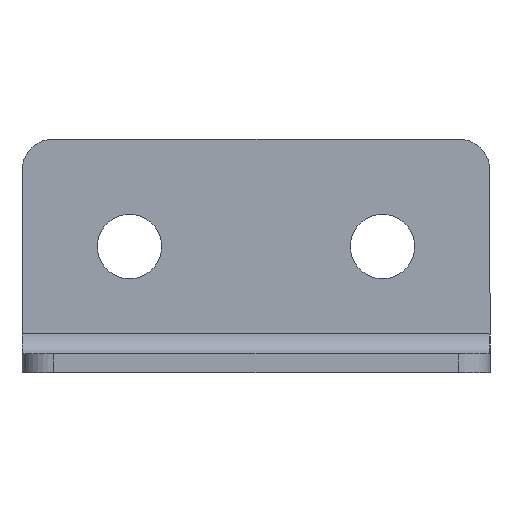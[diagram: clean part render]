
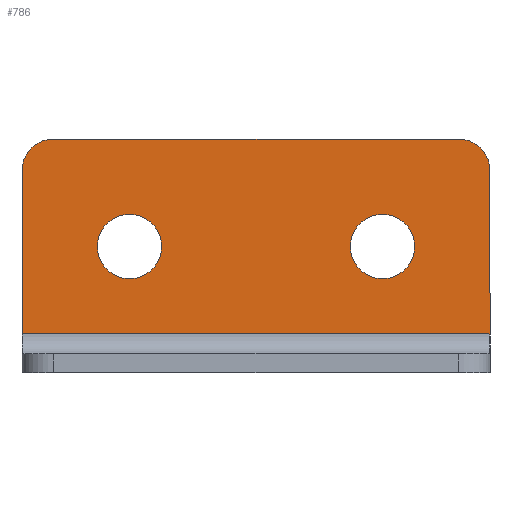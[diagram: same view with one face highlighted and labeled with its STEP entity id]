
A CAD part, top view. The second image highlights one B-rep face of the part: STEP entity #786.
In plain terms, the highlighted planar face has unit normal (0, 0, 1).
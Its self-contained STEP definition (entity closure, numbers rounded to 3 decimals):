
#8 = DIRECTION ( 'NONE',  ( 1., 0., 0. ) ) ;
#30 = EDGE_LOOP ( 'NONE', ( #117, #407, #618, #369, #463, #198 ) ) ;
#31 = VECTOR ( 'NONE', #667, 1000. ) ;
#36 = CARTESIAN_POINT ( 'NONE',  ( 27.135, 9.989, 1.5 ) ) ;
#39 = EDGE_CURVE ( 'NONE', #88, #70, #157, .T. ) ;
#40 = VERTEX_POINT ( 'NONE', #91 ) ;
#65 = FACE_OUTER_BOUND ( 'NONE', #30, .T. ) ;
#70 = VERTEX_POINT ( 'NONE', #370 ) ;
#84 = DIRECTION ( 'NONE',  ( 0., 0., 1. ) ) ;
#88 = VERTEX_POINT ( 'NONE', #765 ) ;
#91 = CARTESIAN_POINT ( 'NONE',  ( -7.365, 9.989, 1.5 ) ) ;
#105 = CIRCLE ( 'NONE', #233, 2.5 ) ;
#117 = ORIENTED_EDGE ( 'NONE', *, *, #39, .T. ) ;
#130 = CARTESIAN_POINT ( 'NONE',  ( -9.865, 9.989, 1.5 ) ) ;
#137 = AXIS2_PLACEMENT_3D ( 'NONE', #783, #405, #8 ) ;
#157 = LINE ( 'NONE', #130, #653 ) ;
#161 = EDGE_LOOP ( 'NONE', ( #610, #357 ) ) ;
#170 = VERTEX_POINT ( 'NONE', #437 ) ;
#185 = CARTESIAN_POINT ( 'NONE',  ( 21.185, 1.489, 1.5 ) ) ;
#187 = CARTESIAN_POINT ( 'NONE',  ( -1.365, 1.489, 1.5 ) ) ;
#192 = CARTESIAN_POINT ( 'NONE',  ( 0., 0., 1.5 ) ) ;
#193 = CARTESIAN_POINT ( 'NONE',  ( 27.135, 7.489, 1.5 ) ) ;
#196 = EDGE_CURVE ( 'NONE', #453, #828, #647, .T. ) ;
#198 = ORIENTED_EDGE ( 'NONE', *, *, #725, .T. ) ;
#225 = CIRCLE ( 'NONE', #561, 2.55 ) ;
#227 = VERTEX_POINT ( 'NONE', #283 ) ;
#233 = AXIS2_PLACEMENT_3D ( 'NONE', #654, #276, #722 ) ;
#245 = FACE_BOUND ( 'NONE', #431, .T. ) ;
#246 = VERTEX_POINT ( 'NONE', #678 ) ;
#259 = DIRECTION ( 'NONE',  ( 1., 0., 0. ) ) ;
#263 = DIRECTION ( 'NONE',  ( 1., 0., 0. ) ) ;
#276 = DIRECTION ( 'NONE',  ( 0., 0., 1. ) ) ;
#283 = CARTESIAN_POINT ( 'NONE',  ( 1.185, 1.489, 1.5 ) ) ;
#284 = CARTESIAN_POINT ( 'NONE',  ( 18.635, 1.489, 1.5 ) ) ;
#291 = VERTEX_POINT ( 'NONE', #185 ) ;
#297 = EDGE_CURVE ( 'NONE', #227, #246, #388, .T. ) ;
#320 = CARTESIAN_POINT ( 'NONE',  ( -1.365, 1.489, 1.5 ) ) ;
#321 = EDGE_CURVE ( 'NONE', #685, #40, #741, .T. ) ;
#333 = CIRCLE ( 'NONE', #137, 2.5 ) ;
#337 = ORIENTED_EDGE ( 'NONE', *, *, #341, .F. ) ;
#340 = DIRECTION ( 'NONE',  ( 0., -1., 0. ) ) ;
#341 = EDGE_CURVE ( 'NONE', #170, #291, #225, .T. ) ;
#352 = DIRECTION ( 'NONE',  ( 1., 0., 0. ) ) ;
#357 = ORIENTED_EDGE ( 'NONE', *, *, #544, .F. ) ;
#363 = AXIS2_PLACEMENT_3D ( 'NONE', #187, #640, #259 ) ;
#369 = ORIENTED_EDGE ( 'NONE', *, *, #674, .T. ) ;
#370 = CARTESIAN_POINT ( 'NONE',  ( -9.865, -5.411, 1.5 ) ) ;
#376 = CIRCLE ( 'NONE', #632, 2.55 ) ;
#379 = DIRECTION ( 'NONE',  ( 0., 1., 0. ) ) ;
#388 = CIRCLE ( 'NONE', #363, 2.55 ) ;
#391 = DIRECTION ( 'NONE',  ( 1., 0., 0. ) ) ;
#405 = DIRECTION ( 'NONE',  ( 0., 0., 1. ) ) ;
#407 = ORIENTED_EDGE ( 'NONE', *, *, #758, .T. ) ;
#426 = VECTOR ( 'NONE', #770, 1000. ) ;
#431 = EDGE_LOOP ( 'NONE', ( #753, #337 ) ) ;
#432 = AXIS2_PLACEMENT_3D ( 'NONE', #320, #760, #391 ) ;
#437 = CARTESIAN_POINT ( 'NONE',  ( 16.085, 1.489, 1.5 ) ) ;
#451 = AXIS2_PLACEMENT_3D ( 'NONE', #192, #643, #263 ) ;
#453 = VERTEX_POINT ( 'NONE', #606 ) ;
#455 = CARTESIAN_POINT ( 'NONE',  ( 0., -5.411, 1.5 ) ) ;
#463 = ORIENTED_EDGE ( 'NONE', *, *, #321, .T. ) ;
#484 = CARTESIAN_POINT ( 'NONE',  ( 18.635, 1.489, 1.5 ) ) ;
#543 = DIRECTION ( 'NONE',  ( 1., 0., 0. ) ) ;
#544 = EDGE_CURVE ( 'NONE', #246, #227, #555, .T. ) ;
#555 = CIRCLE ( 'NONE', #432, 2.55 ) ;
#561 = AXIS2_PLACEMENT_3D ( 'NONE', #484, #84, #543 ) ;
#564 = FACE_BOUND ( 'NONE', #161, .T. ) ;
#582 = CARTESIAN_POINT ( 'NONE',  ( 24.635, 9.989, 1.5 ) ) ;
#583 = LINE ( 'NONE', #455, #426 ) ;
#587 = EDGE_CURVE ( 'NONE', #291, #170, #376, .T. ) ;
#606 = CARTESIAN_POINT ( 'NONE',  ( 27.135, -5.411, 1.5 ) ) ;
#609 = VECTOR ( 'NONE', #379, 1000. ) ;
#610 = ORIENTED_EDGE ( 'NONE', *, *, #297, .F. ) ;
#618 = ORIENTED_EDGE ( 'NONE', *, *, #196, .T. ) ;
#632 = AXIS2_PLACEMENT_3D ( 'NONE', #284, #726, #352 ) ;
#640 = DIRECTION ( 'NONE',  ( 0., 0., 1. ) ) ;
#643 = DIRECTION ( 'NONE',  ( 0., 0., 1. ) ) ;
#647 = LINE ( 'NONE', #36, #609 ) ;
#653 = VECTOR ( 'NONE', #340, 1000. ) ;
#654 = CARTESIAN_POINT ( 'NONE',  ( -7.365, 7.489, 1.5 ) ) ;
#667 = DIRECTION ( 'NONE',  ( -1., 0., 0. ) ) ;
#674 = EDGE_CURVE ( 'NONE', #828, #685, #333, .T. ) ;
#678 = CARTESIAN_POINT ( 'NONE',  ( -3.915, 1.489, 1.5 ) ) ;
#685 = VERTEX_POINT ( 'NONE', #582 ) ;
#722 = DIRECTION ( 'NONE',  ( 1., 0., 0. ) ) ;
#725 = EDGE_CURVE ( 'NONE', #40, #88, #105, .T. ) ;
#726 = DIRECTION ( 'NONE',  ( 0., 0., 1. ) ) ;
#741 = LINE ( 'NONE', #830, #31 ) ;
#753 = ORIENTED_EDGE ( 'NONE', *, *, #587, .F. ) ;
#758 = EDGE_CURVE ( 'NONE', #70, #453, #583, .T. ) ;
#760 = DIRECTION ( 'NONE',  ( 0., 0., 1. ) ) ;
#765 = CARTESIAN_POINT ( 'NONE',  ( -9.865, 7.489, 1.5 ) ) ;
#770 = DIRECTION ( 'NONE',  ( 1., 0., 0. ) ) ;
#783 = CARTESIAN_POINT ( 'NONE',  ( 24.635, 7.489, 1.5 ) ) ;
#786 = ADVANCED_FACE ( 'NONE', ( #65, #564, #245 ), #834, .T. ) ;
#828 = VERTEX_POINT ( 'NONE', #193 ) ;
#830 = CARTESIAN_POINT ( 'NONE',  ( -9.865, 9.989, 1.5 ) ) ;
#834 = PLANE ( 'NONE',  #451 ) ;
